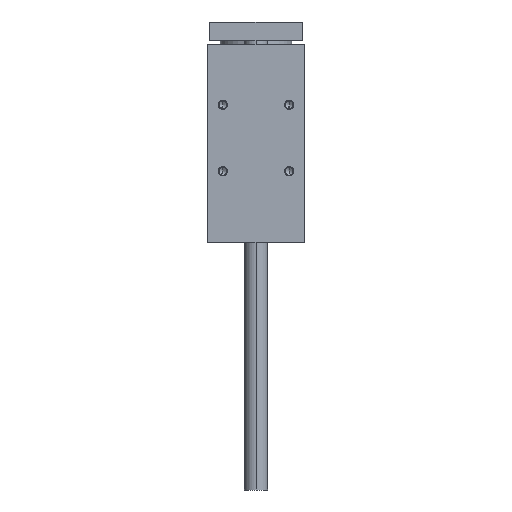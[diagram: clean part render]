
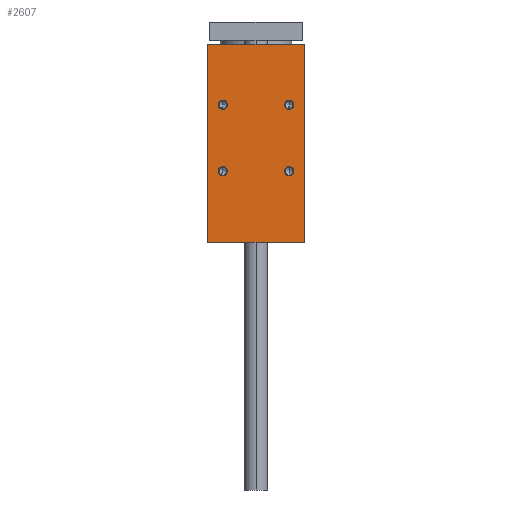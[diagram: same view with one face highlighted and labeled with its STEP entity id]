
A CAD part, left-side view. The second image highlights one B-rep face of the part: STEP entity #2607.
In plain terms, the highlighted planar face has unit normal (-1, 0, 0).
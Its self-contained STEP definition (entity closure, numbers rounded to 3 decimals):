
#277 = CARTESIAN_POINT ( 'NONE',  ( -94.5, 36., 26. ) ) ;
#291 = CARTESIAN_POINT ( 'NONE',  ( -94.5, 52.5, -128. ) ) ;
#485 = VERTEX_POINT ( 'NONE', #6229 ) ;
#508 = DIRECTION ( 'NONE',  ( 1., 0., 0. ) ) ;
#731 = DIRECTION ( 'NONE',  ( 0., 0., -1. ) ) ;
#928 = EDGE_CURVE ( 'NONE', #1893, #2531, #5703, .T. ) ;
#1045 = ORIENTED_EDGE ( 'NONE', *, *, #7954, .T. ) ;
#1240 = FACE_BOUND ( 'NONE', #4951, .T. ) ;
#1329 = VERTEX_POINT ( 'NONE', #2242 ) ;
#1354 = CARTESIAN_POINT ( 'NONE',  ( -94.5, -36., -46. ) ) ;
#1383 = DIRECTION ( 'NONE',  ( 0., 1., 0. ) ) ;
#1471 = CARTESIAN_POINT ( 'NONE',  ( -94.5, 52.5, -128. ) ) ;
#1493 = CARTESIAN_POINT ( 'NONE',  ( -94.5, -36., -51. ) ) ;
#1520 = VECTOR ( 'NONE', #4407, 1000. ) ;
#1655 = VERTEX_POINT ( 'NONE', #1354 ) ;
#1785 = VECTOR ( 'NONE', #1847, 1000. ) ;
#1847 = DIRECTION ( 'NONE',  ( 0., 0., 1. ) ) ;
#1893 = VERTEX_POINT ( 'NONE', #277 ) ;
#1970 = CIRCLE ( 'NONE', #3055, 5. ) ;
#2001 = DIRECTION ( 'NONE',  ( 1., 0., 0. ) ) ;
#2011 = ORIENTED_EDGE ( 'NONE', *, *, #3672, .T. ) ;
#2016 = CARTESIAN_POINT ( 'NONE',  ( -94.5, 36., 21. ) ) ;
#2242 = CARTESIAN_POINT ( 'NONE',  ( -94.5, -52.5, 87. ) ) ;
#2259 = DIRECTION ( 'NONE',  ( 0., 0., -1. ) ) ;
#2287 = AXIS2_PLACEMENT_3D ( 'NONE', #2982, #5966, #2259 ) ;
#2321 = DIRECTION ( 'NONE',  ( 1., 0., 0. ) ) ;
#2324 = EDGE_CURVE ( 'NONE', #1655, #4336, #6014, .T. ) ;
#2531 = VERTEX_POINT ( 'NONE', #4943 ) ;
#2607 = ADVANCED_FACE ( 'NONE', ( #8096, #1240, #5860, #4211, #9556 ), #5667, .F. ) ;
#2702 = EDGE_CURVE ( 'NONE', #4796, #485, #8329, .T. ) ;
#2791 = EDGE_LOOP ( 'NONE', ( #3814, #2011 ) ) ;
#2888 = LINE ( 'NONE', #7460, #1520 ) ;
#2920 = CIRCLE ( 'NONE', #6660, 5. ) ;
#2982 = CARTESIAN_POINT ( 'NONE',  ( -94.5, -36., -51. ) ) ;
#2997 = CIRCLE ( 'NONE', #8443, 5. ) ;
#3001 = VERTEX_POINT ( 'NONE', #9043 ) ;
#3031 = DIRECTION ( 'NONE',  ( 0., 0., -1. ) ) ;
#3055 = AXIS2_PLACEMENT_3D ( 'NONE', #8262, #6073, #731 ) ;
#3111 = DIRECTION ( 'NONE',  ( 0., -1., 0. ) ) ;
#3489 = ORIENTED_EDGE ( 'NONE', *, *, #2324, .T. ) ;
#3656 = CIRCLE ( 'NONE', #5845, 5. ) ;
#3672 = EDGE_CURVE ( 'NONE', #2531, #1893, #1970, .T. ) ;
#3783 = VECTOR ( 'NONE', #6122, 1000. ) ;
#3814 = ORIENTED_EDGE ( 'NONE', *, *, #928, .T. ) ;
#3911 = AXIS2_PLACEMENT_3D ( 'NONE', #1493, #2321, #4472 ) ;
#4065 = DIRECTION ( 'NONE',  ( 0., 0., -1. ) ) ;
#4211 = FACE_BOUND ( 'NONE', #6095, .T. ) ;
#4262 = ORIENTED_EDGE ( 'NONE', *, *, #7964, .F. ) ;
#4336 = VERTEX_POINT ( 'NONE', #4949 ) ;
#4384 = CARTESIAN_POINT ( 'NONE',  ( -94.5, 36., -51. ) ) ;
#4407 = DIRECTION ( 'NONE',  ( 0., -1., 0. ) ) ;
#4441 = DIRECTION ( 'NONE',  ( 1., 0., 0. ) ) ;
#4449 = EDGE_CURVE ( 'NONE', #5421, #6916, #2920, .T. ) ;
#4472 = DIRECTION ( 'NONE',  ( 0., 0., -1. ) ) ;
#4608 = EDGE_CURVE ( 'NONE', #7166, #1329, #2888, .T. ) ;
#4796 = VERTEX_POINT ( 'NONE', #7308 ) ;
#4821 = CARTESIAN_POINT ( 'NONE',  ( -94.5, -52.5, -128. ) ) ;
#4876 = EDGE_CURVE ( 'NONE', #3001, #8842, #3656, .T. ) ;
#4943 = CARTESIAN_POINT ( 'NONE',  ( -94.5, 36., 16. ) ) ;
#4949 = CARTESIAN_POINT ( 'NONE',  ( -94.5, -36., -56. ) ) ;
#4951 = EDGE_LOOP ( 'NONE', ( #3489, #6819 ) ) ;
#4992 = DIRECTION ( 'NONE',  ( 1., 0., 0. ) ) ;
#5267 = CARTESIAN_POINT ( 'NONE',  ( -94.5, -36., 16. ) ) ;
#5351 = DIRECTION ( 'NONE',  ( 1., 0., 0. ) ) ;
#5378 = EDGE_CURVE ( 'NONE', #4336, #1655, #8881, .T. ) ;
#5421 = VERTEX_POINT ( 'NONE', #6557 ) ;
#5440 = CARTESIAN_POINT ( 'NONE',  ( -94.5, -36., 21. ) ) ;
#5553 = LINE ( 'NONE', #4821, #1785 ) ;
#5667 = PLANE ( 'NONE',  #9071 ) ;
#5703 = CIRCLE ( 'NONE', #9431, 5. ) ;
#5782 = ORIENTED_EDGE ( 'NONE', *, *, #4449, .T. ) ;
#5845 = AXIS2_PLACEMENT_3D ( 'NONE', #5903, #4441, #7405 ) ;
#5860 = FACE_BOUND ( 'NONE', #8333, .T. ) ;
#5867 = DIRECTION ( 'NONE',  ( 1., 0., 0. ) ) ;
#5903 = CARTESIAN_POINT ( 'NONE',  ( -94.5, 36., -51. ) ) ;
#5966 = DIRECTION ( 'NONE',  ( 1., 0., 0. ) ) ;
#6014 = CIRCLE ( 'NONE', #2287, 5. ) ;
#6073 = DIRECTION ( 'NONE',  ( 1., 0., 0. ) ) ;
#6095 = EDGE_LOOP ( 'NONE', ( #5782, #1045 ) ) ;
#6122 = DIRECTION ( 'NONE',  ( 0., 0., 1. ) ) ;
#6149 = CARTESIAN_POINT ( 'NONE',  ( -94.5, 52.5, 87. ) ) ;
#6229 = CARTESIAN_POINT ( 'NONE',  ( -94.5, -52.5, -128. ) ) ;
#6257 = VECTOR ( 'NONE', #3111, 1000. ) ;
#6557 = CARTESIAN_POINT ( 'NONE',  ( -94.5, -36., 26. ) ) ;
#6660 = AXIS2_PLACEMENT_3D ( 'NONE', #8057, #5867, #3031 ) ;
#6819 = ORIENTED_EDGE ( 'NONE', *, *, #5378, .T. ) ;
#6916 = VERTEX_POINT ( 'NONE', #5267 ) ;
#7051 = LINE ( 'NONE', #291, #3783 ) ;
#7075 = CIRCLE ( 'NONE', #9246, 5. ) ;
#7166 = VERTEX_POINT ( 'NONE', #6149 ) ;
#7220 = ORIENTED_EDGE ( 'NONE', *, *, #4608, .F. ) ;
#7259 = CARTESIAN_POINT ( 'NONE',  ( -94.5, 36., -56. ) ) ;
#7308 = CARTESIAN_POINT ( 'NONE',  ( -94.5, 52.5, -128. ) ) ;
#7330 = EDGE_LOOP ( 'NONE', ( #8738, #7220, #4262, #8153 ) ) ;
#7358 = ORIENTED_EDGE ( 'NONE', *, *, #4876, .T. ) ;
#7405 = DIRECTION ( 'NONE',  ( 0., 0., -1. ) ) ;
#7460 = CARTESIAN_POINT ( 'NONE',  ( -94.5, 52.5, 87. ) ) ;
#7580 = DIRECTION ( 'NONE',  ( 0., 0., -1. ) ) ;
#7954 = EDGE_CURVE ( 'NONE', #6916, #5421, #2997, .T. ) ;
#7964 = EDGE_CURVE ( 'NONE', #4796, #7166, #7051, .T. ) ;
#8057 = CARTESIAN_POINT ( 'NONE',  ( -94.5, -36., 21. ) ) ;
#8096 = FACE_OUTER_BOUND ( 'NONE', #7330, .T. ) ;
#8147 = ORIENTED_EDGE ( 'NONE', *, *, #8830, .T. ) ;
#8153 = ORIENTED_EDGE ( 'NONE', *, *, #2702, .T. ) ;
#8262 = CARTESIAN_POINT ( 'NONE',  ( -94.5, 36., 21. ) ) ;
#8329 = LINE ( 'NONE', #1471, #6257 ) ;
#8333 = EDGE_LOOP ( 'NONE', ( #7358, #8147 ) ) ;
#8443 = AXIS2_PLACEMENT_3D ( 'NONE', #5440, #5351, #7580 ) ;
#8619 = DIRECTION ( 'NONE',  ( 0., 0., -1. ) ) ;
#8738 = ORIENTED_EDGE ( 'NONE', *, *, #9198, .T. ) ;
#8830 = EDGE_CURVE ( 'NONE', #8842, #3001, #7075, .T. ) ;
#8842 = VERTEX_POINT ( 'NONE', #7259 ) ;
#8881 = CIRCLE ( 'NONE', #3911, 5. ) ;
#9043 = CARTESIAN_POINT ( 'NONE',  ( -94.5, 36., -46. ) ) ;
#9071 = AXIS2_PLACEMENT_3D ( 'NONE', #9466, #508, #1383 ) ;
#9198 = EDGE_CURVE ( 'NONE', #485, #1329, #5553, .T. ) ;
#9246 = AXIS2_PLACEMENT_3D ( 'NONE', #4384, #2001, #8619 ) ;
#9431 = AXIS2_PLACEMENT_3D ( 'NONE', #2016, #4992, #4065 ) ;
#9466 = CARTESIAN_POINT ( 'NONE',  ( -94.5, 52.5, -128. ) ) ;
#9556 = FACE_BOUND ( 'NONE', #2791, .T. ) ;
